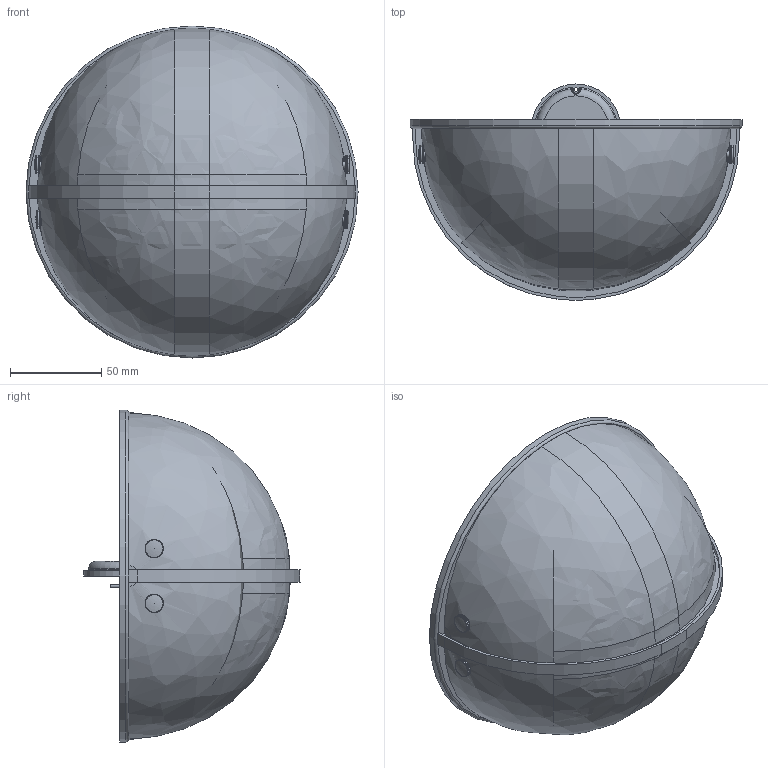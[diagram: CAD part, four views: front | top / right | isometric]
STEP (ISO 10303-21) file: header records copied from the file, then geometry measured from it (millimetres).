
FILE_DESCRIPTION( ( 'Unknown' ), '1' );
FILE_NAME( '//NAS001/PubblicaNas/PROGETTI MM LAMPADARI/SERIE PERLA 7387/TECNICO/ST6_2020 PERLA/PRIMA PROVA PERLA/Perla.stp', 'Unknown', ( 'Unknown' ), ( 'Unknown' ), 'XStep 1.0', 'Unknown', ' ' );
FILE_SCHEMA( ( 'automotive_design' ) );
Length unit declared in the file: millimetre
Products named in the file (11): Assem1; Assem2; Dissipatore ALLUMINIO; Modulo LED  8W; Rosone; Morsetto_wago; VITE M4_lunga; Profilo a T curvo; 400344191; Vite a testa tonda zigrinata; Distanziatore
Bounding box: 182 x 118.44 x 182 mm (x, y, z)
Volume: 388211 mm3; surface area: 385013.5 mm2
Topology: 27 solids, 27 shells, 2104 faces, 5338 edges, 3289 vertices
Faces by surface type: plane 1371, cylinder 574, torus 77, bspline 38, sphere 30, cone 14
Full cylindrical faces by diameter (mm): 1.8 x9, 2 x6, 2.1 x9, 3.242 x12, 3.5 x5, 4 x3, 5 x3, 5.5 x6, 7 x4, 7.5 x6, 12 x3, 20 x3, 49 x3, 148 x3, 179 x2, 182 x2
Entity records: 18677 total; most frequent: CARTESIAN_POINT 4430, DIRECTION 2965, ORIENTED_EDGE 2756, EDGE_CURVE 1378, AXIS2_PLACEMENT_3D 1027, LINE 911, VECTOR 911, VERTEX_POINT 876
